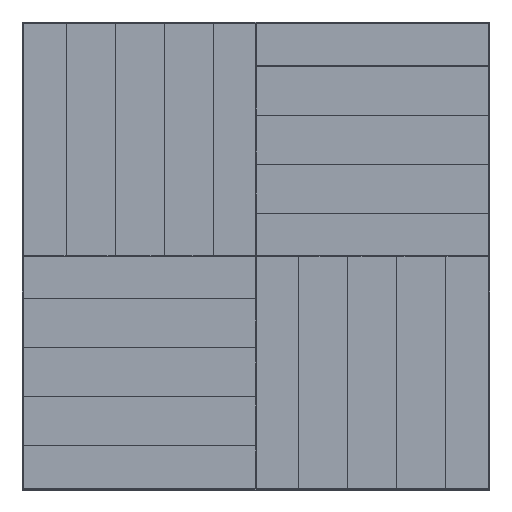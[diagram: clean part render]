
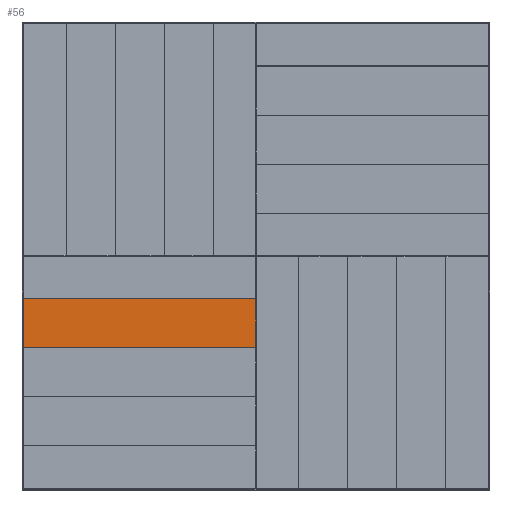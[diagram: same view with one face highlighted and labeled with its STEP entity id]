
A CAD part, top view. The second image highlights one B-rep face of the part: STEP entity #56.
In plain terms, the highlighted planar face has unit normal (0, 0, 1).
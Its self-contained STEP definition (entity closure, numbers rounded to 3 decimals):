
#56=ADVANCED_FACE('',(#249),#2808,.T.);
#249=FACE_OUTER_BOUND('',#442,.T.);
#442=EDGE_LOOP('',(#700,#701,#702,#703));
#700=ORIENTED_EDGE('',*,*,#1570,.F.);
#701=ORIENTED_EDGE('',*,*,#1571,.F.);
#702=ORIENTED_EDGE('',*,*,#1569,.F.);
#703=ORIENTED_EDGE('',*,*,#1568,.F.);
#1568=EDGE_CURVE('',#2460,#2461,#2058,.T.);
#1569=EDGE_CURVE('',#2461,#2462,#2059,.T.);
#1570=EDGE_CURVE('',#2463,#2460,#2060,.T.);
#1571=EDGE_CURVE('',#2462,#2463,#2061,.T.);
#2058=B_SPLINE_CURVE_WITH_KNOTS('',1,(#4012,#4013),.UNSPECIFIED.,.F.,.F.,
(2,2),(0.2,297.8),.UNSPECIFIED.);
#2059=B_SPLINE_CURVE_WITH_KNOTS('',1,(#4014,#4015),.UNSPECIFIED.,.F.,.F.,
(2,2),(0.1,62.9),.UNSPECIFIED.);
#2060=B_SPLINE_CURVE_WITH_KNOTS('',1,(#4016,#4017),.UNSPECIFIED.,.F.,.F.,
(2,2),(0.1,62.9),.UNSPECIFIED.);
#2061=B_SPLINE_CURVE_WITH_KNOTS('',1,(#4018,#4019),.UNSPECIFIED.,.F.,.F.,
(2,2),(0.2,297.8),.UNSPECIFIED.);
#2460=VERTEX_POINT('',#3671);
#2461=VERTEX_POINT('',#3672);
#2462=VERTEX_POINT('',#3673);
#2463=VERTEX_POINT('',#3674);
#2808=PLANE('',#2917);
#2917=AXIS2_PLACEMENT_3D('',#3149,#3009,$);
#3009=DIRECTION('',(0.,0.,1.));
#3149=CARTESIAN_POINT('',(-298.,-54.5,29.8));
#3671=CARTESIAN_POINT('',(-0.2,-117.4,29.8));
#3672=CARTESIAN_POINT('',(-297.8,-117.4,29.8));
#3673=CARTESIAN_POINT('',(-297.8,-54.6,29.8));
#3674=CARTESIAN_POINT('',(-0.2,-54.6,29.8));
#4012=CARTESIAN_POINT('',(-0.2,-117.4,29.8));
#4013=CARTESIAN_POINT('',(-297.8,-117.4,29.8));
#4014=CARTESIAN_POINT('',(-297.8,-117.4,29.8));
#4015=CARTESIAN_POINT('',(-297.8,-54.6,29.8));
#4016=CARTESIAN_POINT('',(-0.2,-54.6,29.8));
#4017=CARTESIAN_POINT('',(-0.2,-117.4,29.8));
#4018=CARTESIAN_POINT('',(-297.8,-54.6,29.8));
#4019=CARTESIAN_POINT('',(-0.2,-54.6,29.8));
